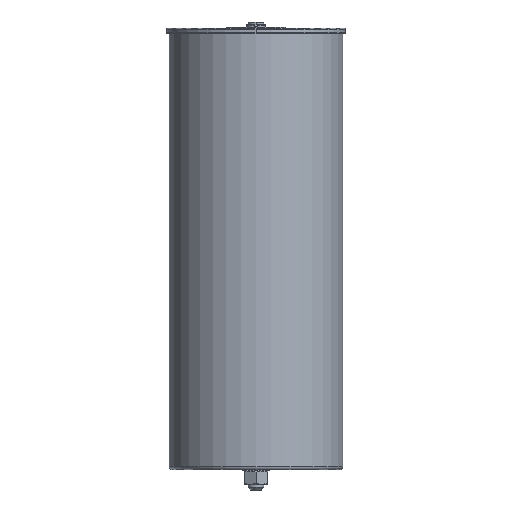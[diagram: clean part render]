
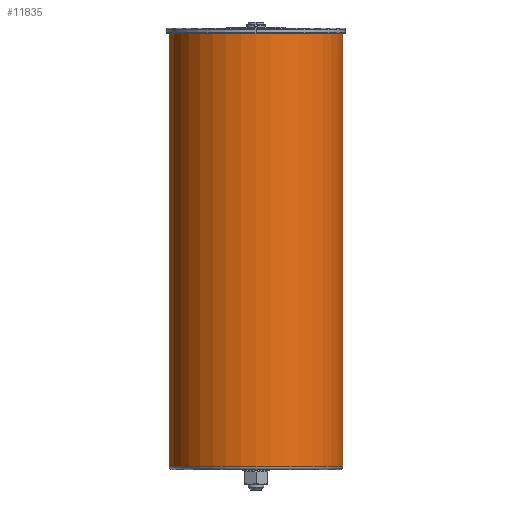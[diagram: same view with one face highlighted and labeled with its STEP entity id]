
A CAD part, left-side view. The second image highlights one B-rep face of the part: STEP entity #11835.
In plain terms, the highlighted cylindrical face has radius 68 mm (diameter 136 mm), a partial arc.
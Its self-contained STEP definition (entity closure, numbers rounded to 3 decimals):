
#197 = CARTESIAN_POINT ( 'NONE',  ( 0., 0., -341. ) ) ;
#374 = DIRECTION ( 'NONE',  ( 0., 0., -1. ) ) ;
#380 = VERTEX_POINT ( 'NONE', #12289 ) ;
#894 = FACE_OUTER_BOUND ( 'NONE', #7223, .T. ) ;
#1051 = CARTESIAN_POINT ( 'NONE',  ( 0., 0., -339. ) ) ;
#1087 = DIRECTION ( 'NONE',  ( 0., 0., -1. ) ) ;
#1236 = VERTEX_POINT ( 'NONE', #5678 ) ;
#1695 = AXIS2_PLACEMENT_3D ( 'NONE', #7692, #10027, #11133 ) ;
#3094 = CARTESIAN_POINT ( 'NONE',  ( 0., 68., -339. ) ) ;
#3154 = EDGE_CURVE ( 'NONE', #380, #4553, #4213, .T. ) ;
#3191 = VERTEX_POINT ( 'NONE', #11435 ) ;
#3290 = LINE ( 'NONE', #11492, #8442 ) ;
#3427 = CIRCLE ( 'NONE', #1695, 68. ) ;
#3701 = ORIENTED_EDGE ( 'NONE', *, *, #13105, .T. ) ;
#3756 = CIRCLE ( 'NONE', #12943, 68. ) ;
#4199 = AXIS2_PLACEMENT_3D ( 'NONE', #197, #374, #6748 ) ;
#4213 = LINE ( 'NONE', #6009, #10237 ) ;
#4390 = CARTESIAN_POINT ( 'NONE',  ( 0., 0., 0.9 ) ) ;
#4553 = VERTEX_POINT ( 'NONE', #3094 ) ;
#4619 = CYLINDRICAL_SURFACE ( 'NONE', #4199, 68. ) ;
#4907 = DIRECTION ( 'NONE',  ( 0., 0., -1. ) ) ;
#5678 = CARTESIAN_POINT ( 'NONE',  ( 0., -68., 0.9 ) ) ;
#5690 = CIRCLE ( 'NONE', #12361, 68. ) ;
#6009 = CARTESIAN_POINT ( 'NONE',  ( 0., 68., -341. ) ) ;
#6472 = DIRECTION ( 'NONE',  ( 0., 0., 1. ) ) ;
#6530 = DIRECTION ( 'NONE',  ( 0., -1., 0. ) ) ;
#6748 = DIRECTION ( 'NONE',  ( 0., -1., 0. ) ) ;
#7223 = EDGE_LOOP ( 'NONE', ( #3701, #9879, #12619, #14102, #11041 ) ) ;
#7692 = CARTESIAN_POINT ( 'NONE',  ( 0., 0., 0.9 ) ) ;
#7860 = DIRECTION ( 'NONE',  ( 0., 1., 0. ) ) ;
#7965 = EDGE_CURVE ( 'NONE', #1236, #3191, #3290, .T. ) ;
#8442 = VECTOR ( 'NONE', #4907, 1000. ) ;
#9879 = ORIENTED_EDGE ( 'NONE', *, *, #3154, .T. ) ;
#10027 = DIRECTION ( 'NONE',  ( 0., 0., -1. ) ) ;
#10135 = VERTEX_POINT ( 'NONE', #10649 ) ;
#10185 = EDGE_CURVE ( 'NONE', #4553, #3191, #5690, .T. ) ;
#10237 = VECTOR ( 'NONE', #13691, 1000. ) ;
#10649 = CARTESIAN_POINT ( 'NONE',  ( -68., 0., 0.9 ) ) ;
#11041 = ORIENTED_EDGE ( 'NONE', *, *, #12715, .T. ) ;
#11133 = DIRECTION ( 'NONE',  ( 0., 1., 0. ) ) ;
#11435 = CARTESIAN_POINT ( 'NONE',  ( 0., -68., -339. ) ) ;
#11492 = CARTESIAN_POINT ( 'NONE',  ( 0., -68., -341. ) ) ;
#11835 = ADVANCED_FACE ( 'NONE', ( #894 ), #4619, .T. ) ;
#12289 = CARTESIAN_POINT ( 'NONE',  ( 0., 68., 0.9 ) ) ;
#12361 = AXIS2_PLACEMENT_3D ( 'NONE', #1051, #6472, #6530 ) ;
#12619 = ORIENTED_EDGE ( 'NONE', *, *, #10185, .T. ) ;
#12715 = EDGE_CURVE ( 'NONE', #1236, #10135, #3427, .T. ) ;
#12943 = AXIS2_PLACEMENT_3D ( 'NONE', #4390, #1087, #7860 ) ;
#13105 = EDGE_CURVE ( 'NONE', #10135, #380, #3756, .T. ) ;
#13691 = DIRECTION ( 'NONE',  ( 0., 0., -1. ) ) ;
#14102 = ORIENTED_EDGE ( 'NONE', *, *, #7965, .F. ) ;
